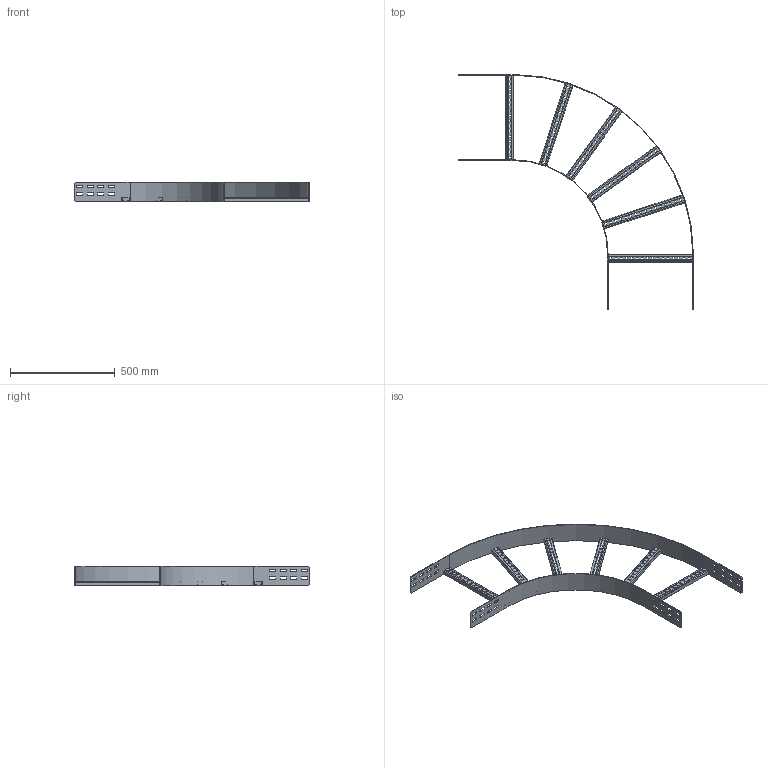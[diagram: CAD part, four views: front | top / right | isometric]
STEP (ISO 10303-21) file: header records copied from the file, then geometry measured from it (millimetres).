
FILE_DESCRIPTION(('Creo Elements/Direct Modeling STEP Export'),'2;1');
FILE_NAME('WPHB10-40-90-45.stp','2016-06-01T11:40:36',(''),(''),'PTC Creo Elements/Direct Modeling STEP processor for AP214 (Solid Model)','PTC Creo Elements/Direct Modeling 19.0C 15-Aug-2015 (C) Parametric Technology GmbH','');
FILE_SCHEMA(('AUTOMOTIVE_DESIGN { 1 0 10303 214 1 1 1 1 }'));
Length unit declared in the file: millimetre
Products named in the file (4): WPHBA_100-40; WPHBI_100; WPHBS40.1.4; WPHB10-40-90-45
Assembly tree (8 placements, depth 2):
  WPHB10-40-90-45
    WPHBS40.1.4  x6
    WPHBI_100
    WPHBA_100-40
Bounding box: 1123 x 1123 x 95 mm (x, y, z)
Volume: 1207572.5 mm3; surface area: 1084173.3 mm2
Topology: 8 solids, 8 shells, 780 faces, 2292 edges, 1528 vertices
Faces by surface type: plane 476, cylinder 304
Entity records: 8886 total; most frequent: CARTESIAN_POINT 1538, ORIENTED_EDGE 1524, DIRECTION 1406, EDGE_CURVE 762, VECTOR 654, LINE 654, VERTEX_POINT 508, AXIS2_PLACEMENT_3D 376
